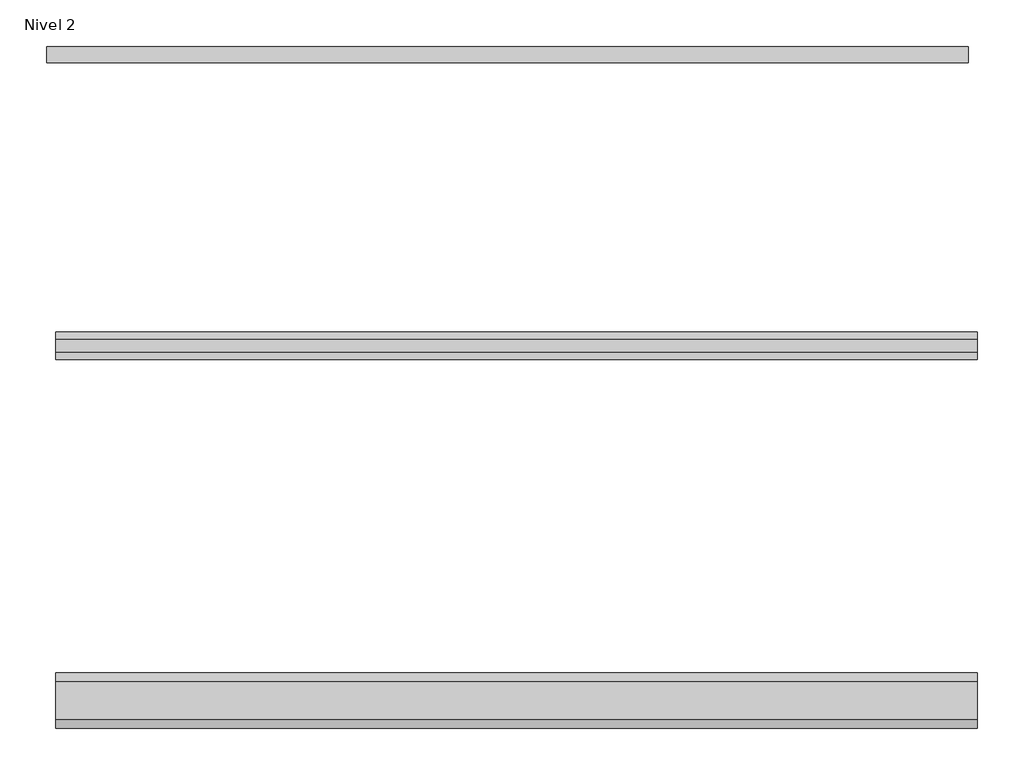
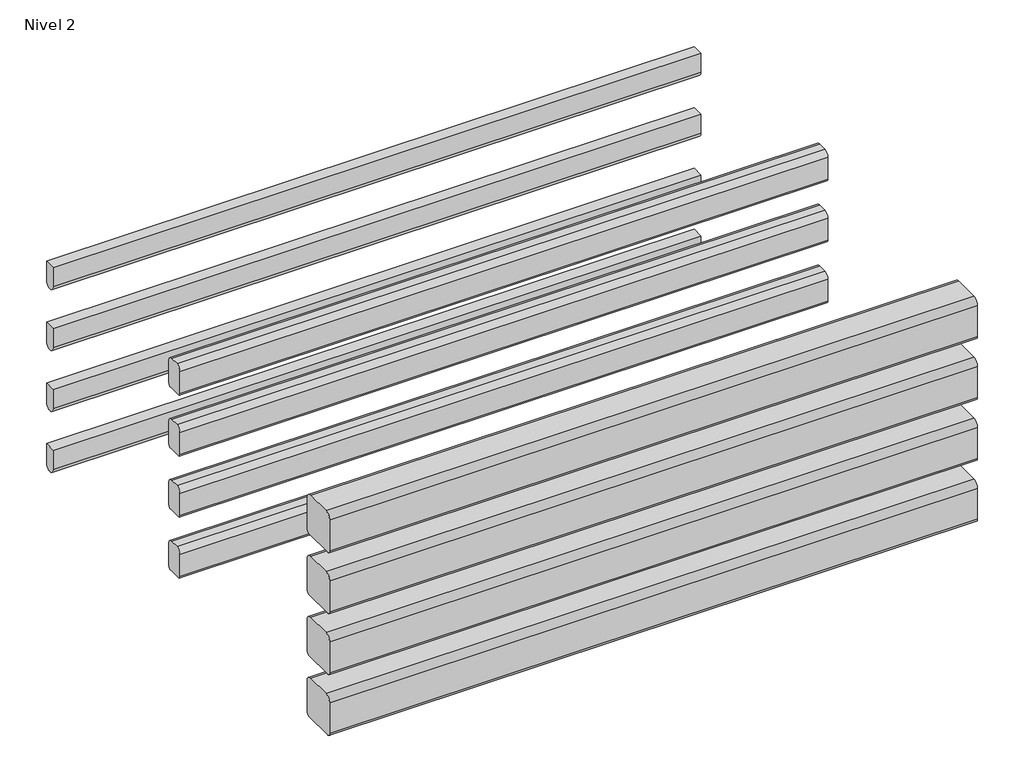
# One storey: 12 beams.
"""IFC4 building model written with IfcOpenShell, lengths in millimetres."""

import ifcopenshell
import ifcopenshell.guid

model = None  # the IFC model being written
_history = None  # IfcOwnerHistory: only IFC2X3 demands one
_inside = {}  # id of a spatial element -> (the spatial element, [elements in it])
_under = {}  # id of a project, library or spatial element -> (it, [spatial elements below it])
_declared = {}  # id of a project -> (the project, [libraries it declares])
_typed = {}  # id of a type object -> (the type object, [elements of that type])
_made_of = {}  # id of a material, layer set ... -> (it, [elements and type objects made of it])


def new_model(schema):
    """Start an empty IFC model of exactly this schema.

    Asked for "IFC4X3", IfcOpenShell would pick the latest addendum, in which some entities
    have other attributes; the version numbers below select the first issue.
    IFC2X3 requires an IfcOwnerHistory on every rooted entity: one is made here for all.
    """
    global model, _history
    if schema == "IFC4X3":
        model = ifcopenshell.file(schema_version=(4, 3, 0, 0))
    else:
        model = ifcopenshell.file(schema=schema)
    _inside.clear()
    _under.clear()
    _declared.clear()
    _typed.clear()
    _made_of.clear()
    _history = None
    if model.schema == "IFC2X3":
        org = make("IfcOrganization", Name="unknown")
        user = make(
            "IfcPersonAndOrganization",
            ThePerson=make("IfcPerson", FamilyName="unknown"),
            TheOrganization=org,
        )
        app = make(
            "IfcApplication",
            ApplicationDeveloper=org,
            Version="unknown",
            ApplicationFullName="unknown",
            ApplicationIdentifier="unknown",
        )
        _history = make(
            "IfcOwnerHistory",
            OwningUser=user,
            OwningApplication=app,
            ChangeAction="ADDED",
            CreationDate=0,
        )
    return model


def make(cls, **values):
    """One entity of the class cls with the attributes given. An attribute that is None is left unset."""
    return model.create_entity(
        cls, **{name: value for name, value in values.items() if value is not None}
    )


def rooted(cls, **values):
    """An entity with a GlobalId (a new one), such as an element, a storey or a relation."""
    return make(cls, GlobalId=ifcopenshell.guid.new(), OwnerHistory=_history, **values)


def si_unit(unit_type, name, prefix=None):
    """IfcSIUnit, for example si_unit("LENGTHUNIT", "METRE", prefix="MILLI")."""
    return make("IfcSIUnit", UnitType=unit_type, Prefix=prefix, Name=name)


def assignment(units):
    """IfcUnitAssignment: the units of a project."""
    return None if units is None else make("IfcUnitAssignment", Units=units)


def point(xyz):
    """IfcCartesianPoint."""
    return None if xyz is None else make("IfcCartesianPoint", Coordinates=xyz)


def direction(xyz):
    """IfcDirection."""
    return None if xyz is None else make("IfcDirection", DirectionRatios=xyz)


def frame(location, z_axis=None, x_axis=None):
    """IfcAxis2Placement3D, a coordinate frame: its origin and axes. An axis left out is left unset."""
    return make(
        "IfcAxis2Placement3D",
        Location=point(location),
        Axis=direction(z_axis),
        RefDirection=direction(x_axis),
    )


def frame_2d(location, x_axis=None):
    """IfcAxis2Placement2D, a coordinate frame in the plane: its origin and x axis."""
    return make(
        "IfcAxis2Placement2D", Location=point(location), RefDirection=direction(x_axis)
    )


def origin():
    """The frame at (0, 0, 0) with its axes left unset."""
    return frame((0.0, 0.0, 0.0))


def place(relative_to, where):
    """IfcLocalPlacement: puts the frame where relative to a parent placement (None: the world)."""
    return make(
        "IfcLocalPlacement", PlacementRelTo=relative_to, RelativePlacement=where
    )


def context(
    kind, dimensions, precision=None, world=None, true_north=None, identifier=None
):
    """IfcGeometricRepresentationContext, for example the 3D "Model" context."""
    return make(
        "IfcGeometricRepresentationContext",
        ContextIdentifier=identifier,
        ContextType=kind,
        CoordinateSpaceDimension=dimensions,
        Precision=precision,
        WorldCoordinateSystem=world,
        TrueNorth=true_north,
    )


def project(units=None, contexts=None):
    """IfcProject with its units and contexts."""
    return rooted(
        "IfcProject",
        Name="project",
        RepresentationContexts=contexts,
        UnitsInContext=assignment(units),
    )


def spatial(cls, under=None, at=None, **own):
    """A site, building, storey or space (cls), placed at a placement, below another one or the project."""
    s = rooted(cls, ObjectPlacement=at, **own)
    if under is not None:
        _under.setdefault(under.id(), (under, []))[1].append(s)
    return s


def polyline(points):
    """IfcPolyline through the points."""
    return make("IfcPolyline", Points=[point(p) for p in points])


def circle_curve(where, radius):
    """IfcCircle in the frame where."""
    return make("IfcCircle", Position=where, Radius=radius)


def trimmed(basis, trim1, trim2, sense, master):
    """IfcTrimmedCurve: the piece of a basis curve between two trims."""
    return make(
        "IfcTrimmedCurve",
        BasisCurve=basis,
        Trim1=trim1,
        Trim2=trim2,
        SenseAgreement=sense,
        MasterRepresentation=master,
    )


def segment(curve, same_sense, transition):
    """IfcCompositeCurveSegment."""
    return make(
        "IfcCompositeCurveSegment",
        Transition=transition,
        SameSense=same_sense,
        ParentCurve=curve,
    )


def composite_curve(segments, self_intersect=None):
    """IfcCompositeCurve: segments joined end to end."""
    return make("IfcCompositeCurve", Segments=segments, SelfIntersect=self_intersect)


def outline(outer, holes=None, kind="AREA"):
    """IfcArbitraryClosedProfileDef: a profile drawn as a closed curve; with holes, ...WithVoids."""
    if holes is None:
        return make("IfcArbitraryClosedProfileDef", ProfileType=kind, OuterCurve=outer)
    return make(
        "IfcArbitraryProfileDefWithVoids",
        ProfileType=kind,
        OuterCurve=outer,
        InnerCurves=holes,
    )


def extrude(swept, where, along, depth):
    """IfcExtrudedAreaSolid: the profile swept, set in the frame where, extruded along a direction by depth."""
    return make(
        "IfcExtrudedAreaSolid",
        SweptArea=swept,
        Position=where,
        ExtrudedDirection=direction(along),
        Depth=depth,
    )


def shape(context_of_items, identifier, shape_type, items):
    """IfcShapeRepresentation: the items that make up one representation, for example the "Body"."""
    return make(
        "IfcShapeRepresentation",
        ContextOfItems=context_of_items,
        RepresentationIdentifier=identifier,
        RepresentationType=shape_type,
        Items=items,
    )


def source(mapping_origin, context_of_items, identifier, shape_type, items):
    """IfcRepresentationMap: a shape defined once, which mapped items show again and again."""
    return make(
        "IfcRepresentationMap",
        MappingOrigin=mapping_origin,
        MappedRepresentation=shape(context_of_items, identifier, shape_type, items),
    )


def transform(
    local_origin,
    x_axis=None,
    y_axis=None,
    z_axis=None,
    scale=None,
    scale2=None,
    scale3=None,
    uniform=True,
):
    """IfcCartesianTransformationOperator3D, or its non-uniform kind. x_axis, y_axis, z_axis: its Axis1, 2, 3."""
    if uniform:
        return make(
            "IfcCartesianTransformationOperator3D",
            Axis1=direction(x_axis),
            Axis2=direction(y_axis),
            LocalOrigin=point(local_origin),
            Scale=scale,
            Axis3=direction(z_axis),
        )
    return make(
        "IfcCartesianTransformationOperator3DnonUniform",
        Axis1=direction(x_axis),
        Axis2=direction(y_axis),
        LocalOrigin=point(local_origin),
        Scale=scale,
        Axis3=direction(z_axis),
        Scale2=scale2,
        Scale3=scale3,
    )


def mapped(mapping_source, mapping_target):
    """IfcMappedItem: shows the shape of a source again, moved by a transform."""
    return make(
        "IfcMappedItem", MappingSource=mapping_source, MappingTarget=mapping_target
    )


def made_of(thing, what):
    """Note that an element or type object is made of a material, layer set ...; save() writes the relation."""
    if what is not None:
        _made_of.setdefault(what.id(), (what, []))[1].append(thing)
    return thing


def element(
    cls,
    number,
    at=None,
    inside=None,
    cuts=None,
    type_object=None,
    material=None,
    context=None,
    identifier="Body",
    shape_type=None,
    held_by="IfcProductDefinitionShape",
    body=None,
    shapes=None,
    **own,
):
    """One element of the class cls, such as IfcWall. Its Tag is "e" and its number.

    at: its placement. inside: the storey or other place that contains it. cuts: it is an
    opening in that element (IfcRelVoidsElement). A single representation is given by context,
    identifier, shape_type and body (its items); several are given by shapes. held_by: the class
    of the entity that holds the representations. save() writes the other relations.
    """
    e = rooted(cls, Tag="e%d" % number, ObjectPlacement=at, **own)
    if body is not None:
        shapes = [shape(context, identifier, shape_type, body)]
    if shapes is not None:
        e.Representation = make(held_by, Representations=shapes)
    if inside is not None:
        _inside.setdefault(inside.id(), (inside, []))[1].append(e)
    if cuts is not None:
        rooted(
            "IfcRelVoidsElement", RelatingBuildingElement=cuts, RelatedOpeningElement=e
        )
    if type_object is not None:
        _typed.setdefault(type_object.id(), (type_object, []))[1].append(e)
    return made_of(e, material)


def aggregate(whole, parts):
    """IfcRelAggregates: a whole, such as a stair, and the parts it consists of."""
    return rooted("IfcRelAggregates", RelatingObject=whole, RelatedObjects=parts)


def save(model, path):
    """Write the relations noted so far, then the file.

    IfcRelAggregates (storeys below a building ...), IfcRelContainedInSpatialStructure (elements
    in a storey), IfcRelDefinesByType, IfcRelAssociatesMaterial and IfcRelDeclares: one each for
    every whole, place, type object, material and project.
    """
    for whole, parts in _under.values():
        aggregate(whole, parts)
    for where, things in _inside.values():
        rooted(
            "IfcRelContainedInSpatialStructure",
            RelatedElements=things,
            RelatingStructure=where,
        )
    for kind, things in _typed.values():
        rooted("IfcRelDefinesByType", RelatedObjects=things, RelatingType=kind)
    for what, things in _made_of.values():
        rooted("IfcRelAssociatesMaterial", RelatedObjects=things, RelatingMaterial=what)
    for by, libraries in _declared.values():
        rooted("IfcRelDeclares", RelatingContext=by, RelatedDefinitions=libraries)
    model.write(path)


def vigueta_ladrillo_12_c73e1c85(model_context):
    return source(origin(), model_context, "Body", "SweptSolid", [
        extrude(outline(composite_curve([segment(polyline([(28.15, 63.4), (28.15, -35.25)]), True, "CONTINUOUS"), segment(trimmed(circle_curve(frame_2d((0.0, -35.25)), 28.15), [point((28.15, -35.25))], [point((-28.15, -35.25))], False, "CARTESIAN"), True, "CONTINUOUS"), segment(polyline([(-28.15, -35.25), (-28.15, 63.4), (28.15, 63.4)]), True, "CONTINUOUS")], self_intersect=False)), frame((-1582.7, 0.0, 0.0), z_axis=(1.0, 0.0, 0.0), x_axis=(0.0, 1.0, 0.0)), (0.0, 0.0, 1.0), 3165.4),
    ])


def vigueta_ladrillo_18_f427e08d(model_context):
    return source(origin(), model_context, "Body", "SweptSolid", [
        extrude(outline(composite_curve([segment(trimmed(circle_curve(frame_2d((21.9, 52.5)), 25.0), [point((21.9, 77.5))], [point((46.9, 52.5))], False, "CARTESIAN"), True, "CONTINUOUS"), segment(polyline([(46.9, 52.5), (46.9, -62.5)]), True, "CONTINUOUS"), segment(trimmed(circle_curve(frame_2d((31.9, -62.5)), 15.0), [point((46.9, -62.5))], [point((31.9, -77.5))], False, "CARTESIAN"), True, "CONTINUOUS"), segment(polyline([(31.9, -77.5), (-31.9, -77.5)]), True, "CONTINUOUS"), segment(trimmed(circle_curve(frame_2d((-31.9, -62.5)), 15.0), [point((-31.9, -77.5))], [point((-46.9, -62.5))], False, "CARTESIAN"), True, "CONTINUOUS"), segment(polyline([(-46.9, -62.5), (-46.9, 52.5)]), True, "CONTINUOUS"), segment(trimmed(circle_curve(frame_2d((-21.9, 52.5)), 25.0), [point((-46.9, 52.5))], [point((-21.9, 77.5))], False, "CARTESIAN"), True, "CONTINUOUS"), segment(polyline([(-21.9, 77.5), (21.9, 77.5)]), True, "CONTINUOUS")], self_intersect=False)), frame((-1582.7, 0.0, 0.0), z_axis=(1.0, 0.0, 0.0), x_axis=(0.0, 1.0, 0.0)), (0.0, 0.0, 1.0), 3165.4),
    ])


def vigueta_ladrillo_25_3ea38565(model_context):
    return source(origin(), model_context, "Body", "SweptSolid", [
        extrude(outline(composite_curve([segment(trimmed(circle_curve(frame_2d((64.7, 73.1)), 30.5), [point((64.7, 103.6))], [point((95.2, 73.1))], False, "CARTESIAN"), True, "CONTINUOUS"), segment(polyline([(95.2, 73.1), (95.2, -85.3)]), True, "CONTINUOUS"), segment(trimmed(circle_curve(frame_2d((76.9, -85.3)), 18.3), [point((95.2, -85.3))], [point((76.9, -103.6))], False, "CARTESIAN"), True, "CONTINUOUS"), segment(polyline([(76.9, -103.6), (-76.9, -103.6)]), True, "CONTINUOUS"), segment(trimmed(circle_curve(frame_2d((-76.9, -85.3)), 18.3), [point((-76.9, -103.6))], [point((-95.2, -85.3))], False, "CARTESIAN"), True, "CONTINUOUS"), segment(polyline([(-95.2, -85.3), (-95.2, 73.1)]), True, "CONTINUOUS"), segment(trimmed(circle_curve(frame_2d((-64.7, 73.1)), 30.5), [point((-95.2, 73.1))], [point((-64.7, 103.6))], False, "CARTESIAN"), True, "CONTINUOUS"), segment(polyline([(-64.7, 103.6), (64.7, 103.6)]), True, "CONTINUOUS")], self_intersect=False)), frame((-1582.7, 0.0, 0.0), z_axis=(1.0, 0.0, 0.0), x_axis=(0.0, 1.0, 0.0)), (0.0, 0.0, 1.0), 3165.4),
    ])


model = new_model("IFC4")

# Units and contexts
model_context = context("Model", 3, world=origin())
ifc_project = project(units=[si_unit("LENGTHUNIT", "METRE", prefix="MILLI")], contexts=[model_context])

# Site, building, storey
site = spatial("IfcSite", under=ifc_project)
building = spatial("IfcBuilding", under=site)
storey = spatial("IfcBuildingStorey", under=building, Name="Nivel 2", Elevation=2400.0)

# Beams
placement = place(None, origin())
vigueta_ladrillo_12_shape = vigueta_ladrillo_12_c73e1c85(model_context)
element("IfcBeam", 1, ObjectType="Vigueta Ladrillo 12 : Ladrillo Exacta 12", at=placement, inside=storey, context=model_context, shape_type="MappedRepresentation", body=[
    mapped(vigueta_ladrillo_12_shape, transform((-4170.33894, 10977.2625708, 1196.6), x_axis=(1.0, 0.0, 0.0), y_axis=(0.0, 1.0, 0.0), z_axis=(0.0, 0.0, 1.0))),
])
element("IfcBeam", 2, ObjectType="Vigueta Ladrillo 12 : Ladrillo Exacta 12", at=placement, inside=storey, context=model_context, shape_type="MappedRepresentation", body=[
    mapped(vigueta_ladrillo_12_shape, transform((-4170.33894, 10977.2625708, 1511.6), x_axis=(1.0, 0.0, 0.0), y_axis=(0.0, 1.0, 0.0), z_axis=(0.0, 0.0, 1.0))),
])
element("IfcBeam", 3, ObjectType="Vigueta Ladrillo 12 : Ladrillo Exacta 12", at=placement, inside=storey, context=model_context, shape_type="MappedRepresentation", body=[
    mapped(vigueta_ladrillo_12_shape, transform((-4170.33894, 10977.2625708, 1826.6), x_axis=(1.0, 0.0, 0.0), y_axis=(0.0, 1.0, 0.0), z_axis=(0.0, 0.0, 1.0))),
])
element("IfcBeam", 4, ObjectType="Vigueta Ladrillo 12 : Ladrillo Exacta 12", at=placement, inside=storey, context=model_context, shape_type="MappedRepresentation", body=[
    mapped(vigueta_ladrillo_12_shape, transform((-4170.33894, 10977.2625708, 2141.6), x_axis=(1.0, 0.0, 0.0), y_axis=(0.0, 1.0, 0.0), z_axis=(0.0, 0.0, 1.0))),
])
vigueta_ladrillo_18_shape = vigueta_ladrillo_18_f427e08d(model_context)
element("IfcBeam", 5, ObjectType="Vigueta Ladrillo 18 : Ladrillo Exacta 18", at=placement, inside=storey, context=model_context, shape_type="MappedRepresentation", body=[
    mapped(vigueta_ladrillo_18_shape, transform((-4139.08894, 9977.2625708, 1277.5), x_axis=(1.0, 0.0, 0.0), y_axis=(0.0, 1.0, 0.0), z_axis=(0.0, 0.0, 1.0))),
])
element("IfcBeam", 6, ObjectType="Vigueta Ladrillo 18 : Ladrillo Exacta 18", at=placement, inside=storey, context=model_context, shape_type="MappedRepresentation", body=[
    mapped(vigueta_ladrillo_18_shape, transform((-4139.08894, 9977.2625708, 1592.5), x_axis=(1.0, 0.0, 0.0), y_axis=(0.0, 1.0, 0.0), z_axis=(0.0, 0.0, 1.0))),
])
element("IfcBeam", 7, ObjectType="Vigueta Ladrillo 18 : Ladrillo Exacta 18", at=placement, inside=storey, context=model_context, shape_type="MappedRepresentation", body=[
    mapped(vigueta_ladrillo_18_shape, transform((-4139.08894, 9977.2625708, 1907.5), x_axis=(1.0, 0.0, 0.0), y_axis=(0.0, 1.0, 0.0), z_axis=(0.0, 0.0, 1.0))),
])
element("IfcBeam", 8, ObjectType="Vigueta Ladrillo 18 : Ladrillo Exacta 18", at=placement, inside=storey, context=model_context, shape_type="MappedRepresentation", body=[
    mapped(vigueta_ladrillo_18_shape, transform((-4139.08894, 9977.2625708, 2222.5), x_axis=(1.0, 0.0, 0.0), y_axis=(0.0, 1.0, 0.0), z_axis=(0.0, 0.0, 1.0))),
])
vigueta_ladrillo_25_shape = vigueta_ladrillo_25_3ea38565(model_context)
element("IfcBeam", 9, ObjectType="Vigueta Ladrillo 25 : Ladrillo Exacta 25", at=placement, inside=storey, context=model_context, shape_type="MappedRepresentation", body=[
    mapped(vigueta_ladrillo_25_shape, transform((-4139.08894, 8758.4418251, 1256.4), x_axis=(1.0, 0.0, 0.0), y_axis=(0.0, 1.0, 0.0), z_axis=(0.0, 0.0, 1.0))),
])
element("IfcBeam", 10, ObjectType="Vigueta Ladrillo 25 : Ladrillo Exacta 25", at=placement, inside=storey, context=model_context, shape_type="MappedRepresentation", body=[
    mapped(vigueta_ladrillo_25_shape, transform((-4139.08894, 8758.4418251, 1571.4), x_axis=(1.0, 0.0, 0.0), y_axis=(0.0, 1.0, 0.0), z_axis=(0.0, 0.0, 1.0))),
])
element("IfcBeam", 11, ObjectType="Vigueta Ladrillo 25 : Ladrillo Exacta 25", at=placement, inside=storey, context=model_context, shape_type="MappedRepresentation", body=[
    mapped(vigueta_ladrillo_25_shape, transform((-4139.08894, 8758.4418251, 1886.4), x_axis=(1.0, 0.0, 0.0), y_axis=(0.0, 1.0, 0.0), z_axis=(0.0, 0.0, 1.0))),
])
element("IfcBeam", 12, ObjectType="Vigueta Ladrillo 25 : Ladrillo Exacta 25", at=placement, inside=storey, context=model_context, shape_type="MappedRepresentation", body=[
    mapped(vigueta_ladrillo_25_shape, transform((-4139.08894, 8758.4418251, 2201.4), x_axis=(1.0, 0.0, 0.0), y_axis=(0.0, 1.0, 0.0), z_axis=(0.0, 0.0, 1.0))),
])

save(model, "model.ifc")
